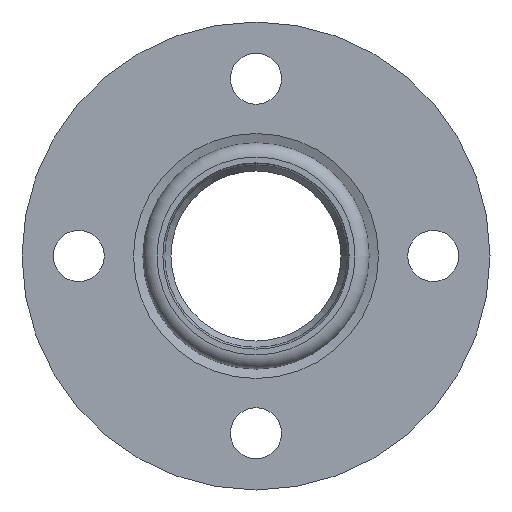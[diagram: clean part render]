
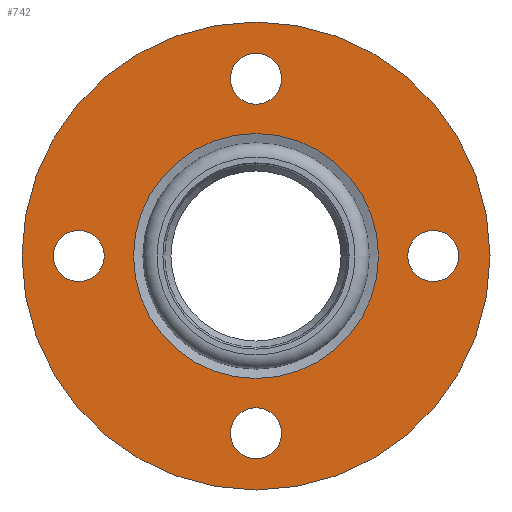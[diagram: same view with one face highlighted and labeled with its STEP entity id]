
A CAD part, left-side view. The second image highlights one B-rep face of the part: STEP entity #742.
In plain terms, the highlighted planar face has unit normal (-1, 0, 0) as drawn and (0, 0, 1) by its records, which use the part's own axes.
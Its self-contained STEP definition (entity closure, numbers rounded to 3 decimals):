
#664=CARTESIAN_POINT('',(-43.183,0.,20.0));
#665=VERTEX_POINT('',#664);
#666=CARTESIAN_POINT('',(0.0,0.0,20.0));
#667=DIRECTION('',(0.0,0.0,-1.0));
#668=DIRECTION('',(1.0,0.0,0.0));
#669=AXIS2_PLACEMENT_3D('',#666,#667,#668);
#670=CIRCLE('',#669,43.183);
#671=EDGE_CURVE('',#665,#665,#670,.T.);
#679=CARTESIAN_POINT('',(0.0,0.0,20.0));
#680=DIRECTION('',(0.0,0.0,-1.0));
#681=DIRECTION('',(-1.0,0.0,0.0));
#682=AXIS2_PLACEMENT_3D('',#679,#680,#681);
#683=PLANE('',#682);
#684=CARTESIAN_POINT('',(82.5,0.,20.0));
#685=VERTEX_POINT('',#684);
#686=CARTESIAN_POINT('',(0.0,0.0,20.0));
#687=DIRECTION('',(0.0,0.0,-1.0));
#688=DIRECTION('',(-1.0,0.0,0.0));
#689=AXIS2_PLACEMENT_3D('',#686,#687,#688);
#690=CIRCLE('',#689,82.5);
#691=EDGE_CURVE('',#685,#685,#690,.T.);
#692=ORIENTED_EDGE('',*,*,#691,.F.);
#693=EDGE_LOOP('',(#692));
#694=FACE_OUTER_BOUND('',#693,.T.);
#695=CARTESIAN_POINT('',(-53.5,0.,20.0));
#696=VERTEX_POINT('',#695);
#697=CARTESIAN_POINT('',(-62.5,0.0,20.0));
#698=DIRECTION('',(0.0,0.0,-1.0));
#699=DIRECTION('',(-1.0,0.0,0.0));
#700=AXIS2_PLACEMENT_3D('',#697,#698,#699);
#701=CIRCLE('',#700,9.0);
#702=EDGE_CURVE('',#696,#696,#701,.T.);
#703=ORIENTED_EDGE('',*,*,#702,.T.);
#704=EDGE_LOOP('',(#703));
#705=FACE_BOUND('',#704,.T.);
#706=CARTESIAN_POINT('',(9.,-62.5,20.0));
#707=VERTEX_POINT('',#706);
#708=CARTESIAN_POINT('',(0.,-62.5,20.0));
#709=DIRECTION('',(0.0,0.0,-1.0));
#710=DIRECTION('',(-1.0,0.0,0.0));
#711=AXIS2_PLACEMENT_3D('',#708,#709,#710);
#712=CIRCLE('',#711,9.0);
#713=EDGE_CURVE('',#707,#707,#712,.T.);
#714=ORIENTED_EDGE('',*,*,#713,.T.);
#715=EDGE_LOOP('',(#714));
#716=FACE_BOUND('',#715,.T.);
#717=CARTESIAN_POINT('',(71.5,0.,20.0));
#718=VERTEX_POINT('',#717);
#719=CARTESIAN_POINT('',(62.5,0.,20.0));
#720=DIRECTION('',(0.0,0.0,-1.0));
#721=DIRECTION('',(-1.0,0.0,0.0));
#722=AXIS2_PLACEMENT_3D('',#719,#720,#721);
#723=CIRCLE('',#722,9.0);
#724=EDGE_CURVE('',#718,#718,#723,.T.);
#725=ORIENTED_EDGE('',*,*,#724,.T.);
#726=EDGE_LOOP('',(#725));
#727=FACE_BOUND('',#726,.T.);
#728=CARTESIAN_POINT('',(9.,62.5,20.0));
#729=VERTEX_POINT('',#728);
#730=CARTESIAN_POINT('',(0.,62.5,20.0));
#731=DIRECTION('',(0.0,0.0,-1.0));
#732=DIRECTION('',(-1.0,0.0,0.0));
#733=AXIS2_PLACEMENT_3D('',#730,#731,#732);
#734=CIRCLE('',#733,9.0);
#735=EDGE_CURVE('',#729,#729,#734,.T.);
#736=ORIENTED_EDGE('',*,*,#735,.T.);
#737=EDGE_LOOP('',(#736));
#738=FACE_BOUND('',#737,.T.);
#739=ORIENTED_EDGE('',*,*,#671,.T.);
#740=EDGE_LOOP('',(#739));
#741=FACE_BOUND('',#740,.T.);
#742=ADVANCED_FACE('',(#694,#705,#716,#727,#738,#741),#683,.F.);
